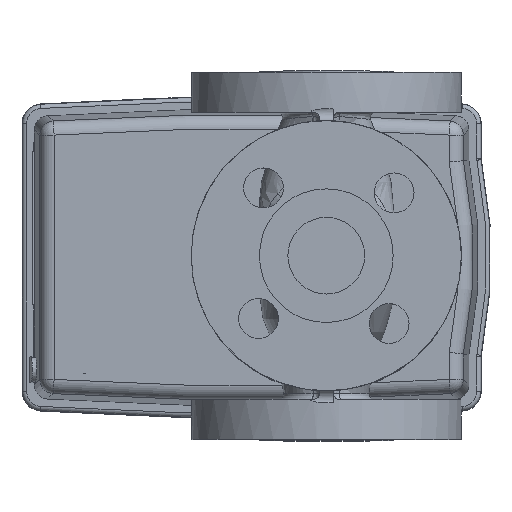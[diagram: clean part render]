
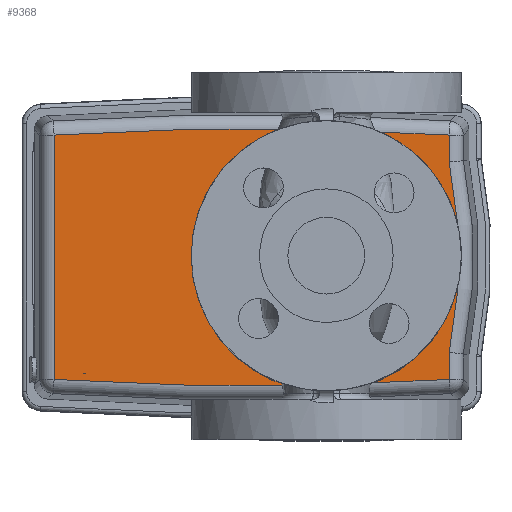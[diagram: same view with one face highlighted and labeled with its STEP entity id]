
A CAD part, top view. The second image highlights one B-rep face of the part: STEP entity #9368.
In plain terms, the highlighted planar face has unit normal (0, 0, 1).
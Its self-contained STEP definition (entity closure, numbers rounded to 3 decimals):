
#726=CIRCLE('',#9988,25.358);
#728=CIRCLE('',#9991,8.5);
#729=CIRCLE('',#9992,1090.687);
#730=CIRCLE('',#9993,163.687);
#731=CIRCLE('',#9994,1090.687);
#2299=ORIENTED_EDGE('',*,*,#3474,.T.);
#2300=ORIENTED_EDGE('',*,*,#3475,.T.);
#2301=ORIENTED_EDGE('',*,*,#3476,.F.);
#2302=ORIENTED_EDGE('',*,*,#3477,.T.);
#2303=ORIENTED_EDGE('',*,*,#3478,.F.);
#2304=ORIENTED_EDGE('',*,*,#3479,.T.);
#2305=ORIENTED_EDGE('',*,*,#3480,.F.);
#2306=ORIENTED_EDGE('',*,*,#3481,.T.);
#2307=ORIENTED_EDGE('',*,*,#3472,.T.);
#3472=EDGE_CURVE('',#4164,#4164,#726,.T.);
#3474=EDGE_CURVE('',#4165,#4166,#728,.T.);
#3475=EDGE_CURVE('',#4166,#4165,#4580,.T.);
#3476=EDGE_CURVE('',#4167,#4168,#729,.T.);
#3477=EDGE_CURVE('',#4167,#4169,#4581,.T.);
#3478=EDGE_CURVE('',#4170,#4169,#730,.T.);
#3479=EDGE_CURVE('',#4170,#4171,#4582,.T.);
#3480=EDGE_CURVE('',#4172,#4171,#731,.T.);
#3481=EDGE_CURVE('',#4172,#4168,#4583,.T.);
#4164=VERTEX_POINT('',#18341);
#4165=VERTEX_POINT('',#18345);
#4166=VERTEX_POINT('',#18346);
#4167=VERTEX_POINT('',#18349);
#4168=VERTEX_POINT('',#18350);
#4169=VERTEX_POINT('',#18352);
#4170=VERTEX_POINT('',#18354);
#4171=VERTEX_POINT('',#18356);
#4172=VERTEX_POINT('',#18358);
#4580=LINE('',#18347,#4970);
#4581=LINE('',#18351,#4971);
#4582=LINE('',#18355,#4972);
#4583=LINE('',#18359,#4973);
#4970=VECTOR('',#11523,1000.);
#4971=VECTOR('',#11526,1000.);
#4972=VECTOR('',#11529,1000.);
#4973=VECTOR('',#11532,1000.);
#5422=EDGE_LOOP('',(#2299,#2300));
#5423=EDGE_LOOP('',(#2301,#2302,#2303,#2304,#2305,#2306));
#5424=EDGE_LOOP('',(#2307));
#5935=FACE_BOUND('',#5422,.T.);
#5936=FACE_BOUND('',#5423,.T.);
#5937=FACE_BOUND('',#5424,.T.);
#6207=PLANE('',#9990);
#9368=ADVANCED_FACE('',(#5935,#5936,#5937),#6207,.F.);
#9988=AXIS2_PLACEMENT_3D('',#18340,#11515,#11516);
#9990=AXIS2_PLACEMENT_3D('',#18343,#11519,#11520);
#9991=AXIS2_PLACEMENT_3D('',#18344,#11521,#11522);
#9992=AXIS2_PLACEMENT_3D('',#18348,#11524,#11525);
#9993=AXIS2_PLACEMENT_3D('',#18353,#11527,#11528);
#9994=AXIS2_PLACEMENT_3D('',#18357,#11530,#11531);
#11515=DIRECTION('',(0.,0.,-1.));
#11516=DIRECTION('',(-1.,0.,0.));
#11519=DIRECTION('',(0.,0.,-1.));
#11520=DIRECTION('',(-1.,0.,0.));
#11521=DIRECTION('',(0.,0.,-1.));
#11522=DIRECTION('',(0.,-1.,0.));
#11523=DIRECTION('',(1.,0.,0.));
#11524=DIRECTION('',(0.,0.,-1.));
#11525=DIRECTION('',(-1.,0.,0.));
#11526=DIRECTION('',(0.,1.,0.));
#11527=DIRECTION('',(0.,0.,-1.));
#11528=DIRECTION('',(-1.,0.,0.));
#11529=DIRECTION('',(0.,1.,0.));
#11530=DIRECTION('',(0.,0.,-1.));
#11531=DIRECTION('',(-1.,0.,0.));
#11532=DIRECTION('',(0.,-1.,0.));
#18340=CARTESIAN_POINT('',(0.755,0.,-24.));
#18341=CARTESIAN_POINT('',(-24.603,0.,-24.));
#18343=CARTESIAN_POINT('',(-25.491,1045.513,-24.));
#18344=CARTESIAN_POINT('',(-84.245,-32.5,-24.));
#18345=CARTESIAN_POINT('',(-83.839,-40.99,-24.));
#18346=CARTESIAN_POINT('',(-84.651,-40.99,-24.));
#18347=CARTESIAN_POINT('',(-93.896,-40.99,-24.));
#18348=CARTESIAN_POINT('',(-25.491,1045.513,-24.));
#18349=CARTESIAN_POINT('',(43.95,-42.961,-24.));
#18350=CARTESIAN_POINT('',(-94.932,-42.961,-24.));
#18351=CARTESIAN_POINT('',(43.95,1045.513,-24.));
#18352=CARTESIAN_POINT('',(43.95,-33.454,-24.));
#18353=CARTESIAN_POINT('',(-116.282,0.,-24.));
#18354=CARTESIAN_POINT('',(43.95,33.454,-24.));
#18355=CARTESIAN_POINT('',(43.95,1045.513,-24.));
#18356=CARTESIAN_POINT('',(43.95,42.961,-24.));
#18357=CARTESIAN_POINT('',(-25.491,-1045.513,-24.));
#18358=CARTESIAN_POINT('',(-94.932,42.961,-24.));
#18359=CARTESIAN_POINT('',(-94.932,1045.513,-24.));
